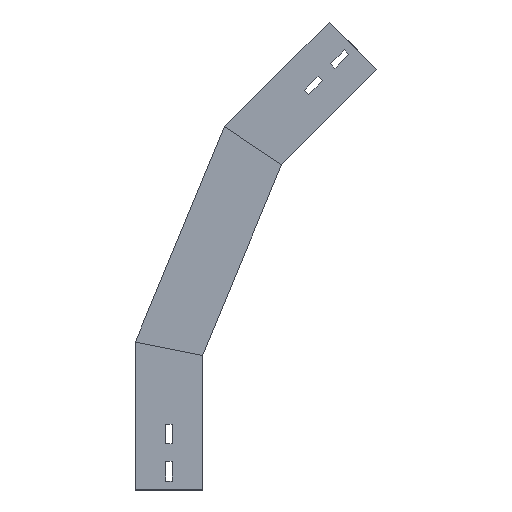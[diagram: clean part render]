
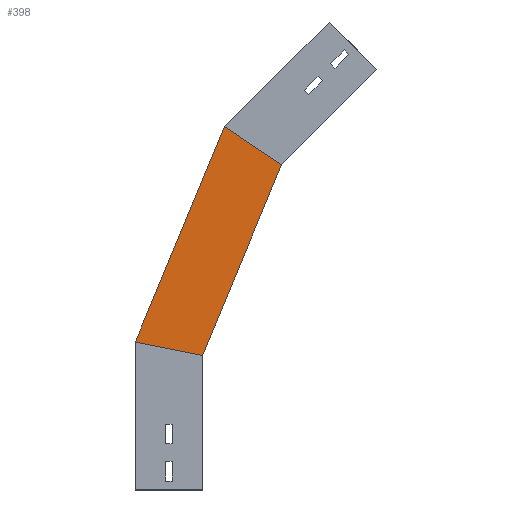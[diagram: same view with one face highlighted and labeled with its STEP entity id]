
A CAD part, left-side view. The second image highlights one B-rep face of the part: STEP entity #398.
In plain terms, the highlighted planar face has unit normal (-1, 0, 0) as drawn and (1, 0, 0) by its records, which use the part's own axes.
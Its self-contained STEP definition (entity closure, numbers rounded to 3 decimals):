
#60 = LINE ( 'NONE', #554, #954 ) ;
#66 = LINE ( 'NONE', #1476, #382 ) ;
#71 = CARTESIAN_POINT ( 'NONE',  ( 0., 6.318, 134.746 ) ) ;
#114 = FACE_OUTER_BOUND ( 'NONE', #278, .T. ) ;
#123 = DIRECTION ( 'NONE',  ( 0., 0., -1. ) ) ;
#219 = VERTEX_POINT ( 'NONE', #392 ) ;
#278 = EDGE_LOOP ( 'NONE', ( #1304, #833, #813, #290 ) ) ;
#290 = ORIENTED_EDGE ( 'NONE', *, *, #707, .F. ) ;
#360 = CARTESIAN_POINT ( 'NONE',  ( 0., 6.318, 134.746 ) ) ;
#382 = VECTOR ( 'NONE', #1146, 1000. ) ;
#392 = CARTESIAN_POINT ( 'NONE',  ( 0., -24.435, 404.976 ) ) ;
#398 = ADVANCED_FACE ( 'NONE', ( #114 ), #811, .T. ) ;
#409 = EDGE_CURVE ( 'NONE', #1002, #847, #1419, .T. ) ;
#416 = VECTOR ( 'NONE', #613, 1000. ) ;
#421 = CARTESIAN_POINT ( 'NONE',  ( 0., 0., 150. ) ) ;
#549 = DIRECTION ( 'NONE',  ( 0., -0.981, -0.195 ) ) ;
#554 = CARTESIAN_POINT ( 'NONE',  ( 0., -28.701, 144.291 ) ) ;
#582 = CARTESIAN_POINT ( 'NONE',  ( 0., 75., 164.918 ) ) ;
#613 = DIRECTION ( 'NONE',  ( 0., -0.383, 0.924 ) ) ;
#707 = EDGE_CURVE ( 'NONE', #1355, #1002, #60, .T. ) ;
#794 = CARTESIAN_POINT ( 'NONE',  ( 0., -88.017, 362.492 ) ) ;
#809 = DIRECTION ( 'NONE',  ( 0., -0.383, 0.924 ) ) ;
#811 = PLANE ( 'NONE',  #1289 ) ;
#813 = ORIENTED_EDGE ( 'NONE', *, *, #409, .F. ) ;
#833 = ORIENTED_EDGE ( 'NONE', *, *, #1170, .T. ) ;
#847 = VERTEX_POINT ( 'NONE', #794 ) ;
#954 = VECTOR ( 'NONE', #549, 1000. ) ;
#996 = DIRECTION ( 'NONE',  ( 1., 0., 0. ) ) ;
#1002 = VERTEX_POINT ( 'NONE', #421 ) ;
#1028 = CARTESIAN_POINT ( 'NONE',  ( 0., 75.609, 163.448 ) ) ;
#1039 = LINE ( 'NONE', #1028, #1315 ) ;
#1146 = DIRECTION ( 'NONE',  ( 0., -0.831, -0.556 ) ) ;
#1170 = EDGE_CURVE ( 'NONE', #219, #847, #66, .T. ) ;
#1289 = AXIS2_PLACEMENT_3D ( 'NONE', #71, #996, #123 ) ;
#1304 = ORIENTED_EDGE ( 'NONE', *, *, #1402, .T. ) ;
#1315 = VECTOR ( 'NONE', #809, 1000. ) ;
#1355 = VERTEX_POINT ( 'NONE', #582 ) ;
#1402 = EDGE_CURVE ( 'NONE', #1355, #219, #1039, .T. ) ;
#1419 = LINE ( 'NONE', #360, #416 ) ;
#1476 = CARTESIAN_POINT ( 'NONE',  ( 0., -128.004, 335.774 ) ) ;
